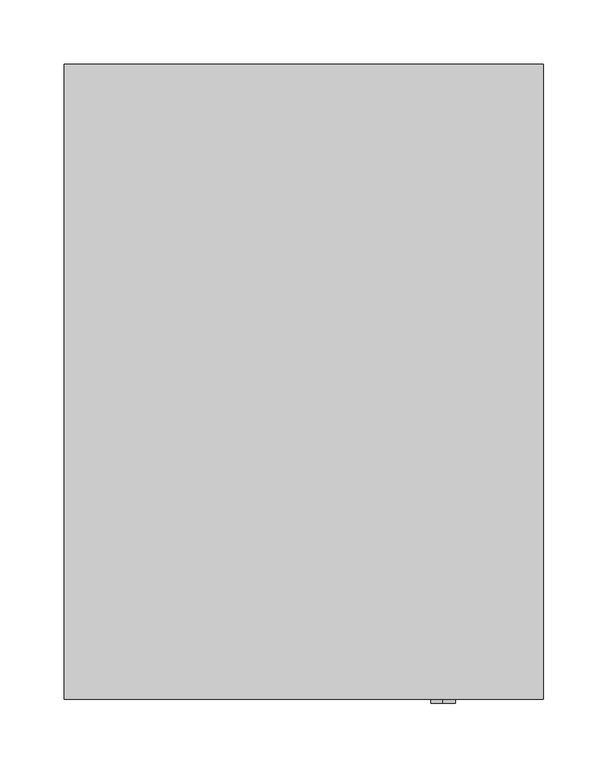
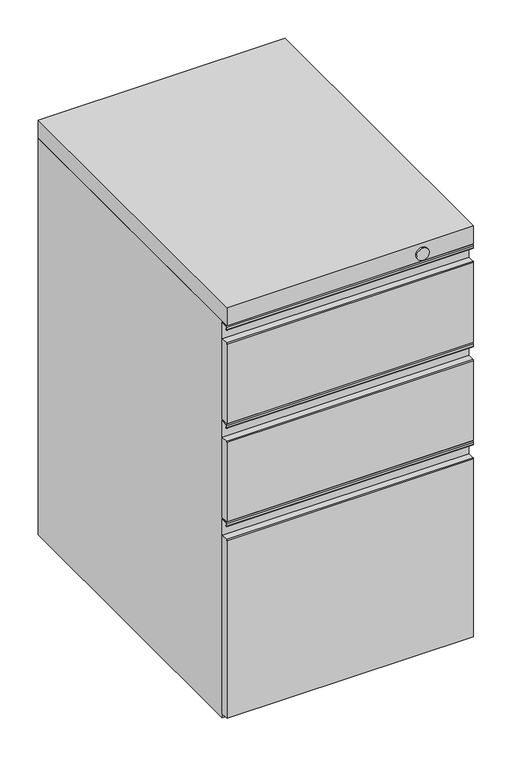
"""IFC4 building model written with IfcOpenShell, lengths in millimetres: furniture geometry, HermanMiller_TuStorage_LW100_W-PullFreestandingPedestal : 20D BBF Standard Hgt."""

from ifc_helpers import new_model, si_unit, point, frame, frame_2d, origin, place, context, project, spatial, polyline, circle_curve, trimmed, segment, composite_curve, outline, extrude, source, transform, mapped, element, save
from ifc_brep_helpers import plane_surface, cylinder_surface, advanced_brep


def furniture_69a8165b(model_context):
    return source(origin(), model_context, "Body", "SolidModel", [
        advanced_brep(
        [(133.35, 230.1874902, 9.525), (133.35, 179.3874932, 9.525), (133.35, 204.7874917, 9.525), (133.35, 230.1874902, 0.0), (133.35, 179.3874932, 0.0), (133.35, 204.7874917, 0.0)],
        [
            (0, 1, circle_curve(frame((133.35, 204.7874917, 9.525), z_axis=(0.0, 0.0, 1.0), x_axis=(0.0, -1.0, 0.0)), 25.3999985)),
            (1, 2),
            (2, 0),
            (1, 0, circle_curve(frame((133.35, 204.7874917, 9.525), z_axis=(0.0, 0.0, 1.0), x_axis=(0.0, -1.0, 0.0)), 25.3999985)),
            (3, 4, circle_curve(frame((133.35, 204.7874917, 0.0), z_axis=(0.0, 0.0, 1.0), x_axis=(0.0, -1.0, 0.0)), 25.3999985)),
            (4, 1),
            (0, 3),
            (4, 3, circle_curve(frame((133.35, 204.7874917, 0.0), z_axis=(0.0, 0.0, 1.0), x_axis=(0.0, -1.0, 0.0)), 25.3999985)),
            (5, 4),
            (3, 5),
        ],
        [
            plane_surface(frame((133.35, 204.7874917, 9.525), z_axis=(0.0, 0.0, 1.0), x_axis=(0.0, -1.0, 0.0))),
            cylinder_surface(frame((133.35, 204.7874917, 0.0), z_axis=(0.0, 0.0, -1.0), x_axis=(0.0, -1.0, 0.0)), 25.3999985),
            plane_surface(frame((133.35, 204.7874917, 0.0), z_axis=(0.0, 0.0, -1.0), x_axis=(0.0, -1.0, 0.0))),
        ],
        [
            (0, [[1, 2, 3]]),
            (0, [[4, -3, -2]]),
            (1, [[5, 6, -1, 7]]),
            (1, [[8, -7, -4, -6]]),
            (2, [[9, -5, 10]]),
            (2, [[-10, -8, -9]]),
        ],
    ),
        advanced_brep(
        [(133.35, -169.8625098, 9.525), (133.35, -220.6625068, 9.525), (133.35, -195.2625083, 9.525), (133.35, -169.8625098, 0.0), (133.35, -220.6625068, 0.0), (133.35, -195.2625083, 0.0)],
        [
            (0, 1, circle_curve(frame((133.35, -195.2625083, 9.525), z_axis=(0.0, 0.0, 1.0), x_axis=(0.0, -1.0, 0.0)), 25.3999985)),
            (1, 2),
            (2, 0),
            (1, 0, circle_curve(frame((133.35, -195.2625083, 9.525), z_axis=(0.0, 0.0, 1.0), x_axis=(0.0, -1.0, 0.0)), 25.3999985)),
            (3, 4, circle_curve(frame((133.35, -195.2625083, 0.0), z_axis=(0.0, 0.0, 1.0), x_axis=(0.0, -1.0, 0.0)), 25.3999985)),
            (4, 1),
            (0, 3),
            (4, 3, circle_curve(frame((133.35, -195.2625083, 0.0), z_axis=(0.0, 0.0, 1.0), x_axis=(0.0, -1.0, 0.0)), 25.3999985)),
            (5, 4),
            (3, 5),
        ],
        [
            plane_surface(frame((133.35, -195.2625083, 9.525), z_axis=(0.0, 0.0, 1.0), x_axis=(0.0, -1.0, 0.0))),
            cylinder_surface(frame((133.35, -195.2625083, 0.0), z_axis=(0.0, 0.0, -1.0), x_axis=(0.0, -1.0, 0.0)), 25.3999985),
            plane_surface(frame((133.35, -195.2625083, 0.0), z_axis=(0.0, 0.0, -1.0), x_axis=(0.0, -1.0, 0.0))),
        ],
        [
            (0, [[1, 2, 3]]),
            (0, [[4, -3, -2]]),
            (1, [[5, 6, -1, 7]]),
            (1, [[8, -7, -4, -6]]),
            (2, [[9, -5, 10]]),
            (2, [[-10, -8, -9]]),
        ],
    ),
        advanced_brep(
        [(-133.35, -169.8625098, 9.525), (-133.35, -220.6625068, 9.525), (-133.35, -195.2625083, 9.525), (-133.35, -169.8625098, 0.0), (-133.35, -220.6625068, 0.0), (-133.35, -195.2625083, 0.0)],
        [
            (0, 1, circle_curve(frame((-133.35, -195.2625083, 9.525), z_axis=(0.0, 0.0, 1.0), x_axis=(0.0, -1.0, 0.0)), 25.3999985)),
            (1, 2),
            (2, 0),
            (1, 0, circle_curve(frame((-133.35, -195.2625083, 9.525), z_axis=(0.0, 0.0, 1.0), x_axis=(0.0, -1.0, 0.0)), 25.3999985)),
            (3, 4, circle_curve(frame((-133.35, -195.2625083, 0.0), z_axis=(0.0, 0.0, 1.0), x_axis=(0.0, -1.0, 0.0)), 25.3999985)),
            (4, 1),
            (0, 3),
            (4, 3, circle_curve(frame((-133.35, -195.2625083, 0.0), z_axis=(0.0, 0.0, 1.0), x_axis=(0.0, -1.0, 0.0)), 25.3999985)),
            (5, 4),
            (3, 5),
        ],
        [
            plane_surface(frame((-133.35, -195.2625083, 9.525), z_axis=(0.0, 0.0, 1.0), x_axis=(0.0, -1.0, 0.0))),
            cylinder_surface(frame((-133.35, -195.2625083, 0.0), z_axis=(0.0, 0.0, -1.0), x_axis=(0.0, -1.0, 0.0)), 25.3999985),
            plane_surface(frame((-133.35, -195.2625083, 0.0), z_axis=(0.0, 0.0, -1.0), x_axis=(0.0, -1.0, 0.0))),
        ],
        [
            (0, [[1, 2, 3]]),
            (0, [[4, -3, -2]]),
            (1, [[5, 6, -1, 7]]),
            (1, [[8, -7, -4, -6]]),
            (2, [[9, -5, 10]]),
            (2, [[-10, -8, -9]]),
        ],
    ),
        advanced_brep(
        [(-133.35, 230.1874902, 9.525), (-133.35, 179.3874932, 9.525), (-133.35, 204.7874917, 9.525), (-133.35, 230.1874902, 0.0), (-133.35, 179.3874932, 0.0), (-133.35, 204.7874917, 0.0)],
        [
            (0, 1, circle_curve(frame((-133.35, 204.7874917, 9.525), z_axis=(0.0, 0.0, 1.0), x_axis=(0.0, -1.0, 0.0)), 25.3999985)),
            (1, 2),
            (2, 0),
            (1, 0, circle_curve(frame((-133.35, 204.7874917, 9.525), z_axis=(0.0, 0.0, 1.0), x_axis=(0.0, -1.0, 0.0)), 25.3999985)),
            (3, 4, circle_curve(frame((-133.35, 204.7874917, 0.0), z_axis=(0.0, 0.0, 1.0), x_axis=(0.0, -1.0, 0.0)), 25.3999985)),
            (4, 1),
            (0, 3),
            (4, 3, circle_curve(frame((-133.35, 204.7874917, 0.0), z_axis=(0.0, 0.0, 1.0), x_axis=(0.0, -1.0, 0.0)), 25.3999985)),
            (5, 4),
            (3, 5),
        ],
        [
            plane_surface(frame((-133.35, 204.7874917, 9.525), z_axis=(0.0, 0.0, 1.0), x_axis=(0.0, -1.0, 0.0))),
            cylinder_surface(frame((-133.35, 204.7874917, 0.0), z_axis=(0.0, 0.0, -1.0), x_axis=(0.0, -1.0, 0.0)), 25.3999985),
            plane_surface(frame((-133.35, 204.7874917, 0.0), z_axis=(0.0, 0.0, -1.0), x_axis=(0.0, -1.0, 0.0))),
        ],
        [
            (0, [[1, 2, 3]]),
            (0, [[4, -3, -2]]),
            (1, [[5, 6, -1, 7]]),
            (1, [[8, -7, -4, -6]]),
            (2, [[9, -5, 10]]),
            (2, [[-10, -8, -9]]),
        ],
    ),
        advanced_brep(
        [(185.7375, -233.3633734, 325.473449), (185.7375, -234.9149365, 327.0250121), (185.7375, -244.2959206, 327.0250121), (185.7375, -245.8467713, 325.4741614), (185.7375, -245.8467713, 321.8684196), (185.7375, -243.4676129, 322.0039975), (185.7375, -245.0852623, 321.9119029), (185.7375, -245.0854655, 325.4751681), (185.7375, -244.2980863, 326.2626201), (185.7375, -234.912758, 326.2626201), (185.7375, -234.1245087, 325.4724066), (185.7375, -234.1245087, 300.1446782), (185.7375, -244.8905918, 300.1446782), (185.7375, -246.0625, 299.0177484), (185.7375, -246.0625, 15.875), (185.7375, -233.3624758, 15.875), (-185.7375, -233.3624758, 325.473655), (-185.7375, -233.3624758, 15.875), (-185.7375, -246.0625, 15.875), (-185.7375, -246.0625, 299.0177484), (-185.7375, -244.8905918, 300.1446782), (-185.7375, -234.1245087, 300.1446782), (-185.7375, -234.1245087, 325.4724066), (-185.7375, -234.912758, 326.2626201), (-185.7375, -244.2980863, 326.2626201), (-185.7375, -245.0854655, 325.4751681), (-185.7375, -245.0852623, 321.9119029), (-185.7375, -243.4676129, 322.0039975), (-185.7375, -245.8467713, 321.8684196), (-185.7375, -245.8467713, 325.4741614), (-185.7375, -244.2959206, 327.0250121), (-185.7375, -234.9149365, 327.0250121)],
        [
            (0, 1, circle_curve(frame((185.7375, -234.9149365, 325.473449), z_axis=(1.0, 0.0, 0.0), x_axis=(0.0, 1.0, 0.0)), 1.5515631)),
            (1, 2),
            (2, 3, circle_curve(frame((185.7375, -244.2959206, 325.4741614), z_axis=(1.0, 0.0, 0.0), x_axis=(0.0, 1.0, 0.0)), 1.5508507)),
            (3, 4),
            (4, 5, circle_curve(frame((185.7375, -244.6533291, 321.8684196), z_axis=(1.0, 0.0, 0.0), x_axis=(0.0, 1.0, 0.0)), 1.1934422)),
            (5, 6),
            (6, 7),
            (7, 8),
            (8, 9),
            (9, 10),
            (10, 11),
            (11, 12),
            (12, 13, circle_curve(frame((185.7375, -244.8905918, 298.9718723), z_axis=(1.0, 0.0, 0.0), x_axis=(0.0, 1.0, 0.0)), 1.1728058)),
            (13, 14),
            (14, 15),
            (15, 0),
            (16, 17),
            (17, 18),
            (18, 19),
            (19, 20, circle_curve(frame((-185.7375, -244.8905918, 298.9718723), z_axis=(-1.0, 0.0, 0.0), x_axis=(0.0, 1.0, 0.0)), 1.1728058)),
            (20, 21),
            (21, 22),
            (22, 23),
            (23, 24),
            (24, 25),
            (25, 26),
            (26, 27),
            (27, 28, circle_curve(frame((-185.7375, -244.6533291, 321.8684196), z_axis=(-1.0, 0.0, 0.0), x_axis=(0.0, 1.0, 0.0)), 1.1934422)),
            (28, 29),
            (29, 30, circle_curve(frame((-185.7375, -244.2959206, 325.4741614), z_axis=(-1.0, 0.0, 0.0), x_axis=(0.0, 1.0, 0.0)), 1.5508507)),
            (30, 31),
            (31, 16, circle_curve(frame((-185.7375, -234.9149365, 325.473449), z_axis=(-1.0, 0.0, 0.0), x_axis=(0.0, 1.0, 0.0)), 1.5515631)),
            (0, 16),
            (31, 1),
            (30, 2),
            (29, 3),
            (28, 4),
            (27, 5),
            (26, 6),
            (25, 7),
            (24, 8),
            (23, 9),
            (22, 10),
            (21, 11),
            (20, 12),
            (19, 13),
            (18, 14),
            (17, 15),
        ],
        [
            plane_surface(frame((185.7375, -233.3633734, 325.473449), z_axis=(1.0, 0.0, 0.0), x_axis=(0.0, 0.0, 1.0))),
            plane_surface(frame((-185.7375, -233.3633734, 325.473449), z_axis=(-1.0, 0.0, 0.0), x_axis=(0.0, 0.0, -1.0))),
            cylinder_surface(frame((-185.7375, -234.9149365, 325.473449), z_axis=(1.0, 0.0, 0.0), x_axis=(0.0, 1.0, 0.0)), 1.5515631),
            plane_surface(frame((185.7375, -234.9149365, 327.0250121), z_axis=(0.0, 0.0, 1.0), x_axis=(-1.0, 0.0, 0.0))),
            cylinder_surface(frame((-185.7375, -244.2959206, 325.4741614), z_axis=(1.0, 0.0, 0.0), x_axis=(0.0, 1.0, 0.0)), 1.5508507),
            plane_surface(frame((185.7375, -245.8467713, 325.4741614), z_axis=(0.0, -1.0, 0.0), x_axis=(-1.0, 0.0, 0.0))),
            cylinder_surface(frame((-185.7375, -244.6533291, 321.8684196), z_axis=(1.0, 0.0, 0.0), x_axis=(0.0, 1.0, 0.0)), 1.1934422),
            plane_surface(frame((185.7375, -243.4676129, 322.0039975), z_axis=(0.0, -0.05683911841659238, 0.9983833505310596), x_axis=(-1.0, 0.0, 0.0))),
            plane_surface(frame((185.7375, -245.0852623, 321.9119029), z_axis=(0.0, 0.9999999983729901, 5.7044017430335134e-05), x_axis=(-1.0, 0.0, 0.0))),
            plane_surface(frame((185.7375, -245.0854655, 325.4751681), z_axis=(0.0, 0.7071394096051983, -0.7070741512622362), x_axis=(-1.0, 0.0, 0.0))),
            plane_surface(frame((185.7375, -244.2980863, 326.2626201), z_axis=(0.0, 0.0, -1.0), x_axis=(-1.0, 0.0, 0.0))),
            plane_surface(frame((185.7375, -234.912758, 326.2626201), z_axis=(0.0, -0.707986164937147, -0.7062263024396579), x_axis=(-1.0, 0.0, 0.0))),
            plane_surface(frame((185.7375, -234.1245087, 325.4724066), z_axis=(0.0, -1.0, 0.0), x_axis=(-1.0, 0.0, 0.0))),
            plane_surface(frame((185.7375, -234.1245087, 300.1446782), z_axis=(0.0, 0.0, 1.0), x_axis=(-1.0, 0.0, 0.0))),
            cylinder_surface(frame((-185.7375, -244.8905918, 298.9718723), z_axis=(1.0, 0.0, 0.0), x_axis=(0.0, 1.0, 0.0)), 1.1728058),
            plane_surface(frame((185.7375, -246.0625, 299.0177484), z_axis=(0.0, -1.0, 0.0), x_axis=(-1.0, 0.0, 0.0))),
            plane_surface(frame((185.7375, -246.0625, 15.875), z_axis=(0.0, 0.0, -1.0), x_axis=(-1.0, 0.0, 0.0))),
            plane_surface(frame((185.7375, -233.3624758, 15.875), z_axis=(0.0, 1.0, 0.0), x_axis=(-1.0, 0.0, 0.0))),
        ],
        [
            (0, [[1, 2, 3, 4, 5, 6, 7, 8, 9, 10, 11, 12, 13, 14, 15, 16]]),
            (1, [[17, 18, 19, 20, 21, 22, 23, 24, 25, 26, 27, 28, 29, 30, 31, 32]]),
            (2, [[-1, 33, -32, 34]]),
            (3, [[-2, -34, -31, 35]]),
            (4, [[-3, -35, -30, 36]]),
            (5, [[-4, -36, -29, 37]]),
            (6, [[-5, -37, -28, 38]]),
            (7, [[-6, -38, -27, 39]]),
            (8, [[-7, -39, -26, 40]]),
            (9, [[-8, -40, -25, 41]]),
            (10, [[-9, -41, -24, 42]]),
            (11, [[-10, -42, -23, 43]]),
            (12, [[-11, -43, -22, 44]]),
            (13, [[-12, -44, -21, 45]]),
            (14, [[-13, -45, -20, 46]]),
            (15, [[-14, -46, -19, 47]]),
            (16, [[-15, -47, -18, 48]]),
            (17, [[-16, -48, -17, -33]]),
        ],
    ),
        advanced_brep(
        [(185.7375, -233.3633734, 638.2109482), (185.7375, -234.9149365, 639.7625114), (185.7375, -244.2959206, 639.7625114), (185.7375, -245.8467713, 638.2116607), (185.7375, -245.8467713, 634.6059189), (185.7375, -243.4676129, 634.7414968), (185.7375, -245.0852623, 634.6494021), (185.7375, -245.0854655, 638.2126674), (185.7375, -244.2980863, 639.0001193), (185.7375, -234.912758, 639.0001193), (185.7375, -234.1245087, 638.2099058), (185.7375, -234.1245087, 612.8821774), (185.7375, -244.8905918, 612.8821774), (185.7375, -246.0625, 611.7552476), (185.7375, -246.0625, 484.9812614), (185.7375, -233.3624758, 484.9812614), (-185.7375, -233.3624758, 638.2111542), (-185.7375, -233.3624758, 484.9812614), (-185.7375, -246.0625, 484.9812614), (-185.7375, -246.0625, 611.7552476), (-185.7375, -244.8905918, 612.8821774), (-185.7375, -234.1245087, 612.8821774), (-185.7375, -234.1245087, 638.2099058), (-185.7375, -234.912758, 639.0001193), (-185.7375, -244.2980863, 639.0001193), (-185.7375, -245.0854655, 638.2126674), (-185.7375, -245.0852623, 634.6494021), (-185.7375, -243.4676129, 634.7414968), (-185.7375, -245.8467713, 634.6059189), (-185.7375, -245.8467713, 638.2116607), (-185.7375, -244.2959206, 639.7625114), (-185.7375, -234.9149365, 639.7625114)],
        [
            (0, 1, circle_curve(frame((185.7375, -234.9149365, 638.2109482), z_axis=(1.0, 0.0, 0.0), x_axis=(0.0, 1.0, 0.0)), 1.5515631)),
            (1, 2),
            (2, 3, circle_curve(frame((185.7375, -244.2959206, 638.2116607), z_axis=(1.0, 0.0, 0.0), x_axis=(0.0, 1.0, 0.0)), 1.5508507)),
            (3, 4),
            (4, 5, circle_curve(frame((185.7375, -244.6533291, 634.6059189), z_axis=(1.0, 0.0, 0.0), x_axis=(0.0, 1.0, 0.0)), 1.1934422)),
            (5, 6),
            (6, 7),
            (7, 8),
            (8, 9),
            (9, 10),
            (10, 11),
            (11, 12),
            (12, 13, circle_curve(frame((185.7375, -244.8905918, 611.7093716), z_axis=(1.0, 0.0, 0.0), x_axis=(0.0, 1.0, 0.0)), 1.1728058)),
            (13, 14),
            (14, 15),
            (15, 0),
            (16, 17),
            (17, 18),
            (18, 19),
            (19, 20, circle_curve(frame((-185.7375, -244.8905918, 611.7093716), z_axis=(-1.0, 0.0, 0.0), x_axis=(0.0, 1.0, 0.0)), 1.1728058)),
            (20, 21),
            (21, 22),
            (22, 23),
            (23, 24),
            (24, 25),
            (25, 26),
            (26, 27),
            (27, 28, circle_curve(frame((-185.7375, -244.6533291, 634.6059189), z_axis=(-1.0, 0.0, 0.0), x_axis=(0.0, 1.0, 0.0)), 1.1934422)),
            (28, 29),
            (29, 30, circle_curve(frame((-185.7375, -244.2959206, 638.2116607), z_axis=(-1.0, 0.0, 0.0), x_axis=(0.0, 1.0, 0.0)), 1.5508507)),
            (30, 31),
            (31, 16, circle_curve(frame((-185.7375, -234.9149365, 638.2109482), z_axis=(-1.0, 0.0, 0.0), x_axis=(0.0, 1.0, 0.0)), 1.5515631)),
            (0, 16),
            (31, 1),
            (30, 2),
            (29, 3),
            (28, 4),
            (27, 5),
            (26, 6),
            (25, 7),
            (24, 8),
            (23, 9),
            (22, 10),
            (21, 11),
            (20, 12),
            (19, 13),
            (18, 14),
            (17, 15),
        ],
        [
            plane_surface(frame((185.7375, -233.3633734, 638.2109482), z_axis=(1.0, 0.0, 0.0), x_axis=(0.0, 0.0, 1.0))),
            plane_surface(frame((-185.7375, -233.3633734, 638.2109482), z_axis=(-1.0, 0.0, 0.0), x_axis=(0.0, 0.0, -1.0))),
            cylinder_surface(frame((-185.7375, -234.9149365, 638.2109482), z_axis=(1.0, 0.0, 0.0), x_axis=(0.0, 1.0, 0.0)), 1.5515631),
            plane_surface(frame((185.7375, -234.9149365, 639.7625114), z_axis=(0.0, 0.0, 1.0), x_axis=(-1.0, 0.0, 0.0))),
            cylinder_surface(frame((-185.7375, -244.2959206, 638.2116607), z_axis=(1.0, 0.0, 0.0), x_axis=(0.0, 1.0, 0.0)), 1.5508507),
            plane_surface(frame((185.7375, -245.8467713, 638.2116607), z_axis=(0.0, -1.0, 0.0), x_axis=(-1.0, 0.0, 0.0))),
            cylinder_surface(frame((-185.7375, -244.6533291, 634.6059189), z_axis=(1.0, 0.0, 0.0), x_axis=(0.0, 1.0, 0.0)), 1.1934422),
            plane_surface(frame((185.7375, -243.4676129, 634.7414968), z_axis=(0.0, -0.05683911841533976, 0.9983833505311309), x_axis=(-1.0, 0.0, 0.0))),
            plane_surface(frame((185.7375, -245.0852623, 634.6494021), z_axis=(0.0, 0.9999999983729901, 5.704401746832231e-05), x_axis=(-1.0, 0.0, 0.0))),
            plane_surface(frame((185.7375, -245.0854655, 638.2126674), z_axis=(0.0, 0.7071394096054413, -0.707074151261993), x_axis=(-1.0, 0.0, 0.0))),
            plane_surface(frame((185.7375, -244.2980863, 639.0001193), z_axis=(0.0, 0.0, -1.0), x_axis=(-1.0, 0.0, 0.0))),
            plane_surface(frame((185.7375, -234.912758, 639.0001193), z_axis=(0.0, -0.707986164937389, -0.7062263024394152), x_axis=(-1.0, 0.0, 0.0))),
            plane_surface(frame((185.7375, -234.1245087, 638.2099058), z_axis=(0.0, -1.0, 0.0), x_axis=(-1.0, 0.0, 0.0))),
            plane_surface(frame((185.7375, -234.1245087, 612.8821774), z_axis=(0.0, 0.0, 1.0), x_axis=(-1.0, 0.0, 0.0))),
            cylinder_surface(frame((-185.7375, -244.8905918, 611.7093716), z_axis=(1.0, 0.0, 0.0), x_axis=(0.0, 1.0, 0.0)), 1.1728058),
            plane_surface(frame((185.7375, -246.0625, 611.7552476), z_axis=(0.0, -1.0, 0.0), x_axis=(-1.0, 0.0, 0.0))),
            plane_surface(frame((185.7375, -246.0625, 484.9812614), z_axis=(0.0, 0.0, -1.0), x_axis=(-1.0, 0.0, 0.0))),
            plane_surface(frame((185.7375, -233.3624758, 484.9812614), z_axis=(0.0, 1.0, 0.0), x_axis=(-1.0, 0.0, 0.0))),
        ],
        [
            (0, [[1, 2, 3, 4, 5, 6, 7, 8, 9, 10, 11, 12, 13, 14, 15, 16]]),
            (1, [[17, 18, 19, 20, 21, 22, 23, 24, 25, 26, 27, 28, 29, 30, 31, 32]]),
            (2, [[-1, 33, -32, 34]]),
            (3, [[-2, -34, -31, 35]]),
            (4, [[-3, -35, -30, 36]]),
            (5, [[-4, -36, -29, 37]]),
            (6, [[-5, -37, -28, 38]]),
            (7, [[-6, -38, -27, 39]]),
            (8, [[-7, -39, -26, 40]]),
            (9, [[-8, -40, -25, 41]]),
            (10, [[-9, -41, -24, 42]]),
            (11, [[-10, -42, -23, 43]]),
            (12, [[-11, -43, -22, 44]]),
            (13, [[-12, -44, -21, 45]]),
            (14, [[-13, -45, -20, 46]]),
            (15, [[-14, -46, -19, 47]]),
            (16, [[-15, -47, -18, 48]]),
            (17, [[-16, -48, -17, -33]]),
        ],
    ),
        advanced_brep(
        [(185.7375, -233.3633734, 481.8421982), (185.7375, -234.9149365, 483.3937614), (185.7375, -244.2959206, 483.3937614), (185.7375, -245.8467713, 481.8429107), (185.7375, -245.8467713, 478.2371689), (185.7375, -243.4676129, 478.3727468), (185.7375, -245.0852623, 478.2806521), (185.7375, -245.0854655, 481.8439174), (185.7375, -244.2980863, 482.6313693), (185.7375, -234.912758, 482.6313693), (185.7375, -234.1245087, 481.8411558), (185.7375, -234.1245087, 456.5134274), (185.7375, -244.8905918, 456.5134274), (185.7375, -246.0625, 455.3864976), (185.7375, -246.0625, 328.6124992), (185.7375, -233.3624758, 328.6124992), (-185.7375, -233.3624758, 481.8424042), (-185.7375, -233.3624758, 328.6124992), (-185.7375, -246.0625, 328.6124992), (-185.7375, -246.0625, 455.3864976), (-185.7375, -244.8905918, 456.5134274), (-185.7375, -234.1245087, 456.5134274), (-185.7375, -234.1245087, 481.8411558), (-185.7375, -234.912758, 482.6313693), (-185.7375, -244.2980863, 482.6313693), (-185.7375, -245.0854655, 481.8439174), (-185.7375, -245.0852623, 478.2806521), (-185.7375, -243.4676129, 478.3727468), (-185.7375, -245.8467713, 478.2371689), (-185.7375, -245.8467713, 481.8429107), (-185.7375, -244.2959206, 483.3937614), (-185.7375, -234.9149365, 483.3937614)],
        [
            (0, 1, circle_curve(frame((185.7375, -234.9149365, 481.8421982), z_axis=(1.0, 0.0, 0.0), x_axis=(0.0, 1.0, 0.0)), 1.5515631)),
            (1, 2),
            (2, 3, circle_curve(frame((185.7375, -244.2959206, 481.8429107), z_axis=(1.0, 0.0, 0.0), x_axis=(0.0, 1.0, 0.0)), 1.5508507)),
            (3, 4),
            (4, 5, circle_curve(frame((185.7375, -244.6533291, 478.2371689), z_axis=(1.0, 0.0, 0.0), x_axis=(0.0, 1.0, 0.0)), 1.1934422)),
            (5, 6),
            (6, 7),
            (7, 8),
            (8, 9),
            (9, 10),
            (10, 11),
            (11, 12),
            (12, 13, circle_curve(frame((185.7375, -244.8905918, 455.3406216), z_axis=(1.0, 0.0, 0.0), x_axis=(0.0, 1.0, 0.0)), 1.1728058)),
            (13, 14),
            (14, 15),
            (15, 0),
            (16, 17),
            (17, 18),
            (18, 19),
            (19, 20, circle_curve(frame((-185.7375, -244.8905918, 455.3406216), z_axis=(-1.0, 0.0, 0.0), x_axis=(0.0, 1.0, 0.0)), 1.1728058)),
            (20, 21),
            (21, 22),
            (22, 23),
            (23, 24),
            (24, 25),
            (25, 26),
            (26, 27),
            (27, 28, circle_curve(frame((-185.7375, -244.6533291, 478.2371689), z_axis=(-1.0, 0.0, 0.0), x_axis=(0.0, 1.0, 0.0)), 1.1934422)),
            (28, 29),
            (29, 30, circle_curve(frame((-185.7375, -244.2959206, 481.8429107), z_axis=(-1.0, 0.0, 0.0), x_axis=(0.0, 1.0, 0.0)), 1.5508507)),
            (30, 31),
            (31, 16, circle_curve(frame((-185.7375, -234.9149365, 481.8421982), z_axis=(-1.0, 0.0, 0.0), x_axis=(0.0, 1.0, 0.0)), 1.5515631)),
            (0, 16),
            (31, 1),
            (30, 2),
            (29, 3),
            (28, 4),
            (27, 5),
            (26, 6),
            (25, 7),
            (24, 8),
            (23, 9),
            (22, 10),
            (21, 11),
            (20, 12),
            (19, 13),
            (18, 14),
            (17, 15),
        ],
        [
            plane_surface(frame((185.7375, -233.3633734, 481.8421982), z_axis=(1.0, 0.0, 0.0), x_axis=(0.0, 0.0, 1.0))),
            plane_surface(frame((-185.7375, -233.3633734, 481.8421982), z_axis=(-1.0, 0.0, 0.0), x_axis=(0.0, 0.0, -1.0))),
            cylinder_surface(frame((-185.7375, -234.9149365, 481.8421982), z_axis=(1.0, 0.0, 0.0), x_axis=(0.0, 1.0, 0.0)), 1.5515631),
            plane_surface(frame((185.7375, -234.9149365, 483.3937614), z_axis=(0.0, 0.0, 1.0), x_axis=(-1.0, 0.0, 0.0))),
            cylinder_surface(frame((-185.7375, -244.2959206, 481.8429107), z_axis=(1.0, 0.0, 0.0), x_axis=(0.0, 1.0, 0.0)), 1.5508507),
            plane_surface(frame((185.7375, -245.8467713, 481.8429107), z_axis=(0.0, -1.0, 0.0), x_axis=(-1.0, 0.0, 0.0))),
            cylinder_surface(frame((-185.7375, -244.6533291, 478.2371689), z_axis=(1.0, 0.0, 0.0), x_axis=(0.0, 1.0, 0.0)), 1.1934422),
            plane_surface(frame((185.7375, -243.4676129, 478.3727468), z_axis=(0.0, -0.056839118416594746, 0.9983833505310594), x_axis=(-1.0, 0.0, 0.0))),
            plane_surface(frame((185.7375, -245.0852623, 478.2806521), z_axis=(0.0, 0.9999999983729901, 5.704401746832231e-05), x_axis=(-1.0, 0.0, 0.0))),
            plane_surface(frame((185.7375, -245.0854655, 481.8439174), z_axis=(0.0, 0.7071394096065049, -0.7070741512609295), x_axis=(-1.0, 0.0, 0.0))),
            plane_surface(frame((185.7375, -244.2980863, 482.6313693), z_axis=(0.0, 0.0, -1.0), x_axis=(-1.0, 0.0, 0.0))),
            plane_surface(frame((185.7375, -234.912758, 482.6313693), z_axis=(0.0, -0.7079861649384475, -0.7062263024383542), x_axis=(-1.0, 0.0, 0.0))),
            plane_surface(frame((185.7375, -234.1245087, 481.8411558), z_axis=(0.0, -1.0, 0.0), x_axis=(-1.0, 0.0, 0.0))),
            plane_surface(frame((185.7375, -234.1245087, 456.5134274), z_axis=(0.0, 0.0, 1.0), x_axis=(-1.0, 0.0, 0.0))),
            cylinder_surface(frame((-185.7375, -244.8905918, 455.3406216), z_axis=(1.0, 0.0, 0.0), x_axis=(0.0, 1.0, 0.0)), 1.1728058),
            plane_surface(frame((185.7375, -246.0625, 455.3864976), z_axis=(0.0, -1.0, 0.0), x_axis=(-1.0, 0.0, 0.0))),
            plane_surface(frame((185.7375, -246.0625, 328.6124992), z_axis=(0.0, 0.0, -1.0), x_axis=(-1.0, 0.0, 0.0))),
            plane_surface(frame((185.7375, -233.3624758, 328.6124992), z_axis=(0.0, 1.0, 0.0), x_axis=(-1.0, 0.0, 0.0))),
        ],
        [
            (0, [[1, 2, 3, 4, 5, 6, 7, 8, 9, 10, 11, 12, 13, 14, 15, 16]]),
            (1, [[17, 18, 19, 20, 21, 22, 23, 24, 25, 26, 27, 28, 29, 30, 31, 32]]),
            (2, [[-1, 33, -32, 34]]),
            (3, [[-2, -34, -31, 35]]),
            (4, [[-3, -35, -30, 36]]),
            (5, [[-4, -36, -29, 37]]),
            (6, [[-5, -37, -28, 38]]),
            (7, [[-6, -38, -27, 39]]),
            (8, [[-7, -39, -26, 40]]),
            (9, [[-8, -40, -25, 41]]),
            (10, [[-9, -41, -24, 42]]),
            (11, [[-10, -42, -23, 43]]),
            (12, [[-11, -43, -22, 44]]),
            (13, [[-12, -44, -21, 45]]),
            (14, [[-13, -45, -20, 46]]),
            (15, [[-14, -46, -19, 47]]),
            (16, [[-15, -47, -18, 48]]),
            (17, [[-16, -48, -17, -33]]),
        ],
    ),
        extrude(outline(polyline([(185.7375, 246.0625), (185.7375, -246.0625), (-185.7375, -246.0625), (-185.7375, 246.0625), (185.7375, 246.0625)])), frame((0.0, 0.0, 641.35), z_axis=(0.0, 0.0, 1.0), x_axis=(1.0, 0.0, 0.0)), (0.0, 0.0, 1.0), 28.575),
        extrude(outline(polyline([(185.7375, 246.0625), (185.7375, -233.3624758), (-185.7375, -233.3624758), (-185.7375, 246.0625), (185.7375, 246.0625)])), frame((0.0, 0.0, 9.525), z_axis=(0.0, 0.0, 1.0), x_axis=(1.0, 0.0, 0.0)), (0.0, 0.0, 1.0), 631.825),
        extrude(outline(composite_curve([segment(trimmed(circle_curve(frame_2d((654.0500242, 107.9500242)), 9.525), [point((644.5250242, 107.9500242))], [point((663.5750242, 107.9500242))], False, "CARTESIAN"), True, "CONTINUOUS"), segment(trimmed(circle_curve(frame_2d((654.0500242, 107.9500242)), 9.525), [point((663.5750242, 107.9500242))], [point((644.5250242, 107.9500242))], False, "CARTESIAN"), True, "CONTINUOUS")], self_intersect=False)), frame((0.0, -249.2374879, 0.0), z_axis=(0.0, 1.0, 0.0), x_axis=(0.0, 0.0, 1.0)), (0.0, 0.0, 1.0), 3.1749879),
    ])


if __name__ == "__main__":
    model = new_model("IFC4")
    model_context = context("Model", 3, world=origin())
    ifc_project = project(units=[si_unit("LENGTHUNIT", "METRE", prefix="MILLI")], contexts=[model_context])
    site = spatial("IfcSite", under=ifc_project)
    building = spatial("IfcBuilding", under=site)
    placement = place(None, origin())
    furniture_shape = furniture_69a8165b(model_context)
    element("IfcFurniture", 1, ObjectType="HermanMiller_TuStorage_LW100_W-PullFreestandingPedestal : 20D BBF Standard Hgt", at=placement, inside=building, context=model_context, shape_type="MappedRepresentation", body=[
        mapped(furniture_shape, transform((0.0, 0.0, 0.0), x_axis=(1.0, 0.0, 0.0), y_axis=(0.0, 1.0, 0.0), z_axis=(0.0, 0.0, 1.0))),
    ])
    save(model, "model.ifc")
